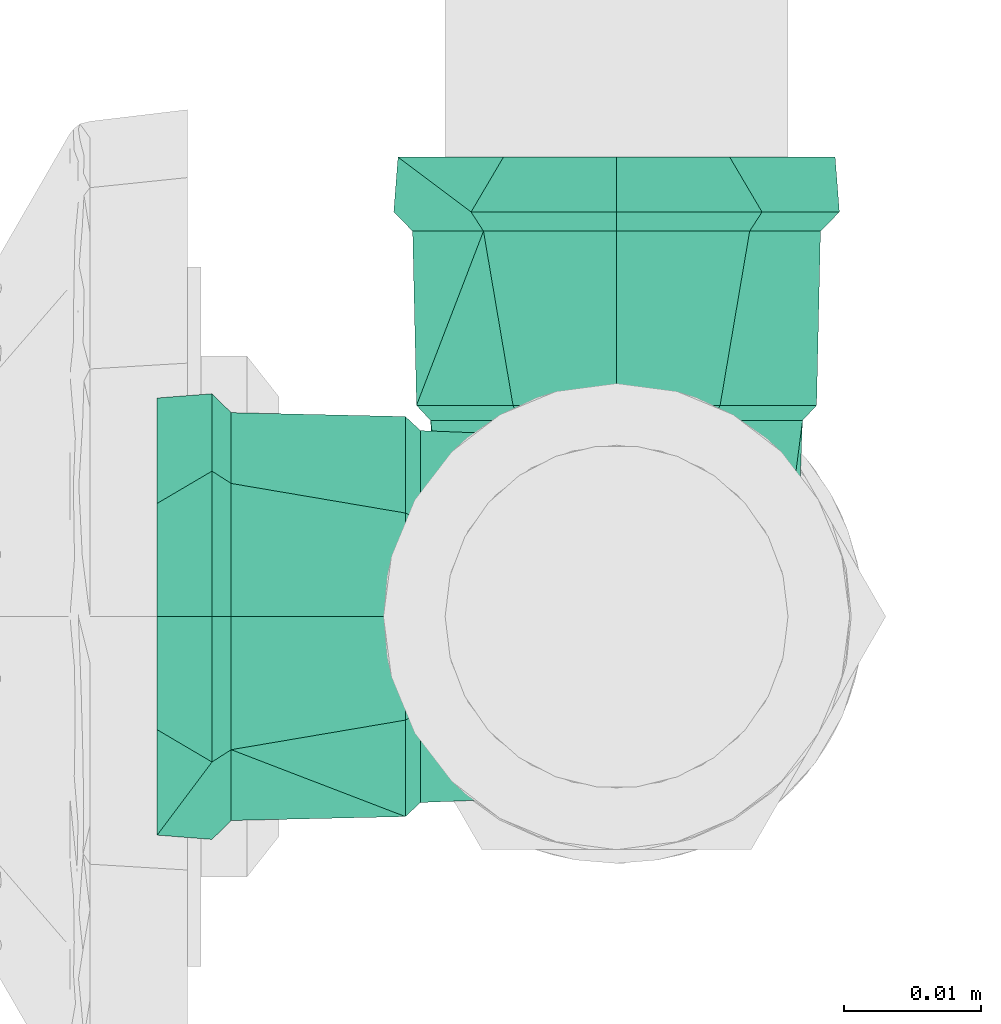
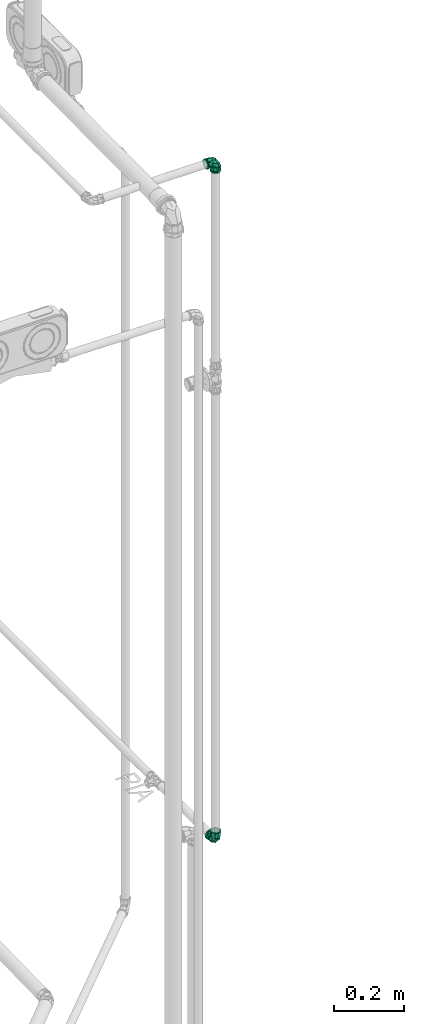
# One storey, part 326 of 589: 2 flow fittings.
"""IFC2X3 building model written with IfcOpenShell, lengths in millimetres."""

import ifcopenshell
import ifcopenshell.guid

model = None  # the IFC model being written
_history = None  # IfcOwnerHistory: only IFC2X3 demands one
_inside = {}  # id of a spatial element -> (the spatial element, [elements in it])
_under = {}  # id of a project, library or spatial element -> (it, [spatial elements below it])
_declared = {}  # id of a project -> (the project, [libraries it declares])
_typed = {}  # id of a type object -> (the type object, [elements of that type])
_made_of = {}  # id of a material, layer set ... -> (it, [elements and type objects made of it])


def new_model(schema):
    """Start an empty IFC model of exactly this schema.

    Asked for "IFC4X3", IfcOpenShell would pick the latest addendum, in which some entities
    have other attributes; the version numbers below select the first issue.
    IFC2X3 requires an IfcOwnerHistory on every rooted entity: one is made here for all.
    """
    global model, _history
    if schema == "IFC4X3":
        model = ifcopenshell.file(schema_version=(4, 3, 0, 0))
    else:
        model = ifcopenshell.file(schema=schema)
    _inside.clear()
    _under.clear()
    _declared.clear()
    _typed.clear()
    _made_of.clear()
    _history = None
    if model.schema == "IFC2X3":
        org = make("IfcOrganization", Name="unknown")
        user = make(
            "IfcPersonAndOrganization",
            ThePerson=make("IfcPerson", FamilyName="unknown"),
            TheOrganization=org,
        )
        app = make(
            "IfcApplication",
            ApplicationDeveloper=org,
            Version="unknown",
            ApplicationFullName="unknown",
            ApplicationIdentifier="unknown",
        )
        _history = make(
            "IfcOwnerHistory",
            OwningUser=user,
            OwningApplication=app,
            ChangeAction="ADDED",
            CreationDate=0,
        )
    return model


def make(cls, **values):
    """One entity of the class cls with the attributes given. An attribute that is None is left unset."""
    return model.create_entity(
        cls, **{name: value for name, value in values.items() if value is not None}
    )


def entity(cls, *values):
    """Any entity or typed value of the class cls, its attributes in the order of the schema. None: left unset."""
    e = model.create_entity(cls)
    for i, value in enumerate(values):
        if value is not None:
            e[i] = value
    return e


def rooted(cls, **values):
    """An entity with a GlobalId (a new one), such as an element, a storey or a relation."""
    return make(cls, GlobalId=ifcopenshell.guid.new(), OwnerHistory=_history, **values)


def si_unit(unit_type, name, prefix=None):
    """IfcSIUnit, for example si_unit("LENGTHUNIT", "METRE", prefix="MILLI")."""
    return make("IfcSIUnit", UnitType=unit_type, Prefix=prefix, Name=name)


def converted_unit(unit_type, name, factor, base, dimensions=None, offset=None):
    """IfcConversionBasedUnit, such as the inch: factor (a typed value) times the base unit."""
    return make(
        "IfcConversionBasedUnit"
        if offset is None
        else "IfcConversionBasedUnitWithOffset",
        ConversionOffset=offset,
        Dimensions=None
        if dimensions is None
        else entity("IfcDimensionalExponents", *dimensions),
        UnitType=unit_type,
        Name=name,
        ConversionFactor=make(
            "IfcMeasureWithUnit", ValueComponent=factor, UnitComponent=base
        ),
    )


def derived_unit(unit_type, elements):
    """IfcDerivedUnit: a product of units, each with its exponent."""
    return make(
        "IfcDerivedUnit",
        Elements=[
            make("IfcDerivedUnitElement", Unit=unit, Exponent=power)
            for unit, power in elements
        ],
        UnitType=unit_type,
    )


def assignment(units):
    """IfcUnitAssignment: the units of a project."""
    return None if units is None else make("IfcUnitAssignment", Units=units)


def point(xyz):
    """IfcCartesianPoint."""
    return None if xyz is None else make("IfcCartesianPoint", Coordinates=xyz)


def direction(xyz):
    """IfcDirection."""
    return None if xyz is None else make("IfcDirection", DirectionRatios=xyz)


def frame(location, z_axis=None, x_axis=None):
    """IfcAxis2Placement3D, a coordinate frame: its origin and axes. An axis left out is left unset."""
    return make(
        "IfcAxis2Placement3D",
        Location=point(location),
        Axis=direction(z_axis),
        RefDirection=direction(x_axis),
    )


def origin():
    """The frame at (0, 0, 0) with its axes left unset."""
    return frame((0.0, 0.0, 0.0))


def place(relative_to, where):
    """IfcLocalPlacement: puts the frame where relative to a parent placement (None: the world)."""
    return make(
        "IfcLocalPlacement", PlacementRelTo=relative_to, RelativePlacement=where
    )


def context(
    kind, dimensions, precision=None, world=None, true_north=None, identifier=None
):
    """IfcGeometricRepresentationContext, for example the 3D "Model" context."""
    return make(
        "IfcGeometricRepresentationContext",
        ContextIdentifier=identifier,
        ContextType=kind,
        CoordinateSpaceDimension=dimensions,
        Precision=precision,
        WorldCoordinateSystem=world,
        TrueNorth=true_north,
    )


def subcontext(parent, identifier, kind, view, scale=None):
    """IfcGeometricRepresentationSubContext, for example "Body" below "Model"."""
    return make(
        "IfcGeometricRepresentationSubContext",
        ContextIdentifier=identifier,
        ContextType=kind,
        ParentContext=parent,
        TargetScale=scale,
        TargetView=view,
    )


def project(units=None, contexts=None):
    """IfcProject with its units and contexts."""
    return rooted(
        "IfcProject",
        Name="project",
        RepresentationContexts=contexts,
        UnitsInContext=assignment(units),
    )


def spatial(cls, under=None, at=None, **own):
    """A site, building, storey or space (cls), placed at a placement, below another one or the project."""
    s = rooted(cls, ObjectPlacement=at, **own)
    if under is not None:
        _under.setdefault(under.id(), (under, []))[1].append(s)
    return s


def faces_of(points, faces, orient=None, outer=None):
    """IfcFace entities. A face is a list of loops; a loop is a list of indices into points, from 0.

    orient and outer hold one flag for each loop. By default every Orientation is true, the
    first loop of a face is its IfcFaceOuterBound and the others are IfcFaceBound.
    """
    made = []
    for i, loops in enumerate(faces):
        bounds = []
        for j, loop in enumerate(loops):
            is_outer = j == 0 if outer is None else outer[i][j]
            bounds.append(
                make(
                    "IfcFaceOuterBound" if is_outer else "IfcFaceBound",
                    Bound=make("IfcPolyLoop", Polygon=[points[k] for k in loop]),
                    Orientation=True if orient is None else orient[i][j],
                )
            )
        made.append(make("IfcFace", Bounds=bounds))
    return made


def faceted_brep(points, faces, orient=None, outer=None, voids=None):
    """IfcFacetedBrep: a solid bounded by flat faces; with voids (closed shells), ...WithVoids."""
    shared = [point(p) for p in points]
    hull = make("IfcClosedShell", CfsFaces=faces_of(shared, faces, orient, outer))
    if voids is None:
        return make("IfcFacetedBrep", Outer=hull)
    return make(
        "IfcFacetedBrepWithVoids",
        Outer=hull,
        Voids=[
            make(cls, CfsFaces=faces_of(shared, fs, o, b)) for cls, fs, o, b in voids
        ],
    )


def shape(context_of_items, identifier, shape_type, items):
    """IfcShapeRepresentation: the items that make up one representation, for example the "Body"."""
    return make(
        "IfcShapeRepresentation",
        ContextOfItems=context_of_items,
        RepresentationIdentifier=identifier,
        RepresentationType=shape_type,
        Items=items,
    )


def source(mapping_origin, context_of_items, identifier, shape_type, items):
    """IfcRepresentationMap: a shape defined once, which mapped items show again and again."""
    return make(
        "IfcRepresentationMap",
        MappingOrigin=mapping_origin,
        MappedRepresentation=shape(context_of_items, identifier, shape_type, items),
    )


def transform(
    local_origin,
    x_axis=None,
    y_axis=None,
    z_axis=None,
    scale=None,
    scale2=None,
    scale3=None,
    uniform=True,
):
    """IfcCartesianTransformationOperator3D, or its non-uniform kind. x_axis, y_axis, z_axis: its Axis1, 2, 3."""
    if uniform:
        return make(
            "IfcCartesianTransformationOperator3D",
            Axis1=direction(x_axis),
            Axis2=direction(y_axis),
            LocalOrigin=point(local_origin),
            Scale=scale,
            Axis3=direction(z_axis),
        )
    return make(
        "IfcCartesianTransformationOperator3DnonUniform",
        Axis1=direction(x_axis),
        Axis2=direction(y_axis),
        LocalOrigin=point(local_origin),
        Scale=scale,
        Axis3=direction(z_axis),
        Scale2=scale2,
        Scale3=scale3,
    )


def mapped(mapping_source, mapping_target):
    """IfcMappedItem: shows the shape of a source again, moved by a transform."""
    return make(
        "IfcMappedItem", MappingSource=mapping_source, MappingTarget=mapping_target
    )


def material(Name=None, Category=None):
    """IfcMaterial."""
    return make("IfcMaterial", Name=Name, Category=Category)


def made_of(thing, what):
    """Note that an element or type object is made of a material, layer set ...; save() writes the relation."""
    if what is not None:
        _made_of.setdefault(what.id(), (what, []))[1].append(thing)
    return thing


def type_object(cls, material=None, **own):
    """A type object (cls), such as IfcWallType, which elements share."""
    return made_of(rooted(cls, **own), material)


def type_shapes(of_type, sources):
    """Give a type object the sources (RepresentationMaps) that its elements show as mapped items."""
    of_type.RepresentationMaps = sources


def element(
    cls,
    number,
    at=None,
    inside=None,
    cuts=None,
    type_object=None,
    material=None,
    context=None,
    identifier="Body",
    shape_type=None,
    held_by="IfcProductDefinitionShape",
    body=None,
    shapes=None,
    **own,
):
    """One element of the class cls, such as IfcWall. Its Tag is "e" and its number.

    at: its placement. inside: the storey or other place that contains it. cuts: it is an
    opening in that element (IfcRelVoidsElement). A single representation is given by context,
    identifier, shape_type and body (its items); several are given by shapes. held_by: the class
    of the entity that holds the representations. save() writes the other relations.
    """
    e = rooted(cls, Tag="e%d" % number, ObjectPlacement=at, **own)
    if body is not None:
        shapes = [shape(context, identifier, shape_type, body)]
    if shapes is not None:
        e.Representation = make(held_by, Representations=shapes)
    if inside is not None:
        _inside.setdefault(inside.id(), (inside, []))[1].append(e)
    if cuts is not None:
        rooted(
            "IfcRelVoidsElement", RelatingBuildingElement=cuts, RelatedOpeningElement=e
        )
    if type_object is not None:
        _typed.setdefault(type_object.id(), (type_object, []))[1].append(e)
    return made_of(e, material)


def aggregate(whole, parts):
    """IfcRelAggregates: a whole, such as a stair, and the parts it consists of."""
    return rooted("IfcRelAggregates", RelatingObject=whole, RelatedObjects=parts)


def save(model, path):
    """Write the relations noted so far, then the file.

    IfcRelAggregates (storeys below a building ...), IfcRelContainedInSpatialStructure (elements
    in a storey), IfcRelDefinesByType, IfcRelAssociatesMaterial and IfcRelDeclares: one each for
    every whole, place, type object, material and project.
    """
    for whole, parts in _under.values():
        aggregate(whole, parts)
    for where, things in _inside.values():
        rooted(
            "IfcRelContainedInSpatialStructure",
            RelatedElements=things,
            RelatingStructure=where,
        )
    for kind, things in _typed.values():
        rooted("IfcRelDefinesByType", RelatedObjects=things, RelatingType=kind)
    for what, things in _made_of.values():
        rooted("IfcRelAssociatesMaterial", RelatedObjects=things, RelatingMaterial=what)
    for by, libraries in _declared.values():
        rooted("IfcRelDeclares", RelatingContext=by, RelatedDefinitions=libraries)
    model.write(path)


model = new_model("IFC2X3")

# Units and contexts
model_context = context("Model", 3, precision=0.01, world=origin(), true_north=direction((6.123031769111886e-17, 1.0)))
body_context = subcontext(model_context, "Body", "Model", "MODEL_VIEW")
ifc_project = project(units=[si_unit("LENGTHUNIT", "METRE", prefix="MILLI"), si_unit("AREAUNIT", "SQUARE_METRE"), si_unit("VOLUMEUNIT", "CUBIC_METRE"), converted_unit("PLANEANGLEUNIT", "DEGREE", entity("IfcRatioMeasure", 0.017453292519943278), si_unit("PLANEANGLEUNIT", "RADIAN"), dimensions=[0, 0, 0, 0, 0, 0, 0]), si_unit("MASSUNIT", "GRAM", prefix="KILO"), derived_unit("MASSDENSITYUNIT", [(si_unit("MASSUNIT", "GRAM", prefix="KILO"), 1), (si_unit("LENGTHUNIT", "METRE"), -3)]), derived_unit("IONCONCENTRATIONUNIT", [(si_unit("MASSUNIT", "GRAM", prefix="KILO"), 1), (si_unit("LENGTHUNIT", "METRE"), -3)]), derived_unit("MOMENTOFINERTIAUNIT", [(si_unit("LENGTHUNIT", "METRE"), 4)]), si_unit("TIMEUNIT", "SECOND"), si_unit("FREQUENCYUNIT", "HERTZ"), si_unit("THERMODYNAMICTEMPERATUREUNIT", "DEGREE_CELSIUS"), derived_unit("THERMALTRANSMITTANCEUNIT", [(si_unit("MASSUNIT", "GRAM", prefix="KILO"), 1), (si_unit("THERMODYNAMICTEMPERATUREUNIT", "KELVIN"), -1), (si_unit("TIMEUNIT", "SECOND"), -3)]), derived_unit("THERMALCONDUCTANCEUNIT", [(si_unit("MASSUNIT", "GRAM", prefix="KILO"), 1), (si_unit("THERMODYNAMICTEMPERATUREUNIT", "KELVIN"), -1), (si_unit("TIMEUNIT", "SECOND"), -3), (si_unit("LENGTHUNIT", "METRE"), 1)]), derived_unit("VOLUMETRICFLOWRATEUNIT", [(si_unit("LENGTHUNIT", "METRE"), 3), (si_unit("TIMEUNIT", "SECOND"), -1)]), derived_unit("MASSFLOWRATEUNIT", [(si_unit("MASSUNIT", "GRAM", prefix="KILO"), 1), (si_unit("TIMEUNIT", "SECOND"), -1)]), derived_unit("ROTATIONALFREQUENCYUNIT", [(si_unit("TIMEUNIT", "SECOND"), -1)]), si_unit("ELECTRICCURRENTUNIT", "AMPERE"), si_unit("ELECTRICVOLTAGEUNIT", "VOLT"), si_unit("POWERUNIT", "WATT"), si_unit("FORCEUNIT", "NEWTON", prefix="KILO"), si_unit("ILLUMINANCEUNIT", "LUX"), si_unit("LUMINOUSFLUXUNIT", "LUMEN"), si_unit("LUMINOUSINTENSITYUNIT", "CANDELA"), derived_unit("USERDEFINED", [(si_unit("MASSUNIT", "GRAM", prefix="KILO"), -1), (si_unit("LENGTHUNIT", "METRE"), -2), (si_unit("TIMEUNIT", "SECOND"), 3), (si_unit("LUMINOUSFLUXUNIT", "LUMEN"), 1)]), derived_unit("USERDEFINED", [(si_unit("MASSUNIT", "GRAM", prefix="KILO"), 1), (si_unit("TIMEUNIT", "SECOND"), -3), (si_unit("LENGTHUNIT", "METRE"), 3), (si_unit("ELECTRICCURRENTUNIT", "AMPERE"), -2)]), derived_unit("SOUNDPOWERUNIT", [(si_unit("MASSUNIT", "GRAM", prefix="KILO"), 1), (si_unit("TIMEUNIT", "SECOND"), -3), (si_unit("LENGTHUNIT", "METRE"), 2)]), derived_unit("SOUNDPRESSUREUNIT", [(si_unit("MASSUNIT", "GRAM", prefix="KILO"), 1), (si_unit("LENGTHUNIT", "METRE"), -1), (si_unit("TIMEUNIT", "SECOND"), -2)]), derived_unit("LINEARVELOCITYUNIT", [(si_unit("LENGTHUNIT", "METRE"), 1), (si_unit("TIMEUNIT", "SECOND"), -1)]), si_unit("PRESSUREUNIT", "PASCAL"), derived_unit("USERDEFINED", [(si_unit("MASSUNIT", "GRAM", prefix="KILO"), 1), (si_unit("LENGTHUNIT", "METRE"), -2), (si_unit("TIMEUNIT", "SECOND"), -2)]), derived_unit("LINEARFORCEUNIT", [(si_unit("MASSUNIT", "GRAM", prefix="KILO"), 1), (si_unit("TIMEUNIT", "SECOND"), -2)]), derived_unit("PLANARFORCEUNIT", [(si_unit("MASSUNIT", "GRAM", prefix="KILO"), 1), (si_unit("LENGTHUNIT", "METRE"), -1), (si_unit("TIMEUNIT", "SECOND"), -2)]), derived_unit("SPECIFICHEATCAPACITYUNIT", [(si_unit("THERMODYNAMICTEMPERATUREUNIT", "KELVIN"), -1), (si_unit("LENGTHUNIT", "METRE"), 2), (si_unit("TIMEUNIT", "SECOND"), -2)]), derived_unit("HEATINGVALUEUNIT", [(si_unit("LENGTHUNIT", "METRE"), 2), (si_unit("TIMEUNIT", "SECOND"), -2)]), derived_unit("VAPORPERMEABILITYUNIT", [(si_unit("LENGTHUNIT", "METRE"), -1), (si_unit("TIMEUNIT", "SECOND"), 1)]), derived_unit("DYNAMICVISCOSITYUNIT", [(si_unit("MASSUNIT", "GRAM", prefix="KILO"), 1), (si_unit("TIMEUNIT", "SECOND"), -1), (si_unit("LENGTHUNIT", "METRE"), -1)]), derived_unit("THERMALEXPANSIONCOEFFICIENTUNIT", [(si_unit("THERMODYNAMICTEMPERATUREUNIT", "KELVIN"), -1)]), derived_unit("MODULUSOFELASTICITYUNIT", [(si_unit("MASSUNIT", "GRAM", prefix="KILO"), 1), (si_unit("LENGTHUNIT", "METRE"), -1), (si_unit("TIMEUNIT", "SECOND"), -2)]), derived_unit("ISOTHERMALMOISTURECAPACITYUNIT", [(si_unit("LENGTHUNIT", "METRE"), 3), (si_unit("MASSUNIT", "GRAM", prefix="KILO"), -1)]), derived_unit("MOISTUREDIFFUSIVITYUNIT", [(si_unit("TIMEUNIT", "SECOND"), -1), (si_unit("LENGTHUNIT", "METRE"), 2)])], contexts=[model_context])

# Site, building, storey
site_placement = place(None, origin())
site = spatial("IfcSite", under=ifc_project, at=site_placement, Name="Default", CompositionType="ELEMENT")
building_placement = place(site_placement, origin())
building = spatial("IfcBuilding", under=site, at=building_placement, CompositionType="ELEMENT")
storey_placement = place(building_placement, frame((0.0, 0.0, 100.0)))
storey = spatial("IfcBuildingStorey", under=building, at=storey_placement, Name="TÉRREO", CompositionType="ELEMENT", Elevation=100.0)

# Flow fittings
ifc_material = material(Name="PVC Marrom")
pipe_fitting_type = type_object("IfcPipeFittingType", Name="PVC Marrom Soldável_Joelho 45°_90°_Rodrigo MEP:Joelho", PredefinedType="NOTDEFINED", material=ifc_material)
shared_shape = source(origin(), body_context, "Body", "Brep", [
    faceted_brep([(3.908167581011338, 15.40000000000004, 14.585479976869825), (13.076983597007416, 15.40000000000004, 7.549999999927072), (15.099999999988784, 15.40000000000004, 0.0), (13.076983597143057, 15.40000000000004, -7.55000000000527), (3.9081675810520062, 15.40000000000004, -14.585479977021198), (-3.9081675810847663, 15.40000000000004, -14.585479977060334), (-13.076983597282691, 15.40000000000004, -7.550000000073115), (-15.100000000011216, 15.40000000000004, 0.0), (-13.076983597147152, 15.40000000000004, 7.549999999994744), (-3.908167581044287, 15.40000000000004, 14.585479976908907), (-3.633819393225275, 14.30000000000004, 13.561598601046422), (-12.158996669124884, 14.30000000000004, 7.0199999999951), (-14.040000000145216, 14.30000000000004, 0.0), (-12.158996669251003, 14.30000000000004, -7.020000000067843), (-3.6338193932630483, 14.30000000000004, -13.561598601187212), (3.6338193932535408, 14.30000000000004, -13.561598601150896), (12.158996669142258, 14.30000000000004, -7.020000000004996), (14.039999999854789, 14.30000000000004, 0.0), (12.158996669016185, 14.30000000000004, 7.0199999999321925), (3.6338193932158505, 14.30000000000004, 13.561598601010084)], [[[0, 1, 2, 3, 4, 5, 6, 7, 8, 9]], [[10, 11, 12, 13, 14, 15, 16, 17, 18, 19]], [[3, 17, 16]], [[4, 3, 16, 15]], [[3, 2, 17]], [[15, 14, 5, 4]], [[6, 5, 14, 13]], [[7, 13, 12]], [[7, 6, 13]], [[8, 12, 11]], [[9, 8, 11, 10]], [[8, 7, 12]], [[10, 19, 0, 9]], [[1, 0, 19, 18]], [[2, 18, 17]], [[2, 1, 18]]]),
    faceted_brep([(-15.399999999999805, 3.908167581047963, 14.585479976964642), (-15.399999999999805, 13.076983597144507, 7.549999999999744), (-15.399999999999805, 15.100000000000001, 0.0), (-15.399999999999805, 13.076983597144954, -7.54999999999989), (-15.399999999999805, 3.9081675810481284, -14.58547997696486), (-15.399999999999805, -3.9081675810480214, -14.585479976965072), (-15.399999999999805, -13.0769835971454, -7.550000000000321), (-15.399999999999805, -15.099999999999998, 0.0), (-15.399999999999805, -13.076983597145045, 7.550000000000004), (-15.399999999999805, -3.908167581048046, 14.585479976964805), (-14.299999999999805, 12.158996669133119, 7.019999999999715), (-14.299999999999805, 3.6338193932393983, 13.561598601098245), (-14.299999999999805, -3.633819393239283, 13.56159860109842), (-14.299999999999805, -12.15899666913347, 7.020000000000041), (-14.299999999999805, -14.040000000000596, 0.0), (-14.299999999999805, -12.158996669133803, -7.020000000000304), (-14.299999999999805, -3.63381939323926, -13.561598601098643), (-14.299999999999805, 3.6338193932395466, -13.56159860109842), (-14.299999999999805, 12.158996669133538, -7.019999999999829), (-14.299999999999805, 14.03999999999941, 0.0)], [[[0, 1, 2, 3, 4, 5, 6, 7, 8, 9]], [[10, 11, 12, 13, 14, 15, 16, 17, 18, 19]], [[3, 2, 19, 18]], [[4, 3, 18, 17]], [[17, 16, 5, 4]], [[6, 5, 16, 15]], [[7, 6, 15, 14]], [[8, 7, 14, 13]], [[9, 8, 13, 12]], [[12, 11, 0, 9]], [[1, 0, 11, 10]], [[2, 1, 10, 19]]]),
    faceted_brep([(-33.4999999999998, -4.2705142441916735, -15.937776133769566), (-33.4999999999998, -6.250000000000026, -10.825317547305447), (-33.4999999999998, 0.0, -12.5), (-33.4999999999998, -14.289419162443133, -8.25000000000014), (-33.4999999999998, 4.270514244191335, -15.937776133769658), (-33.4999999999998, -12.074072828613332, -3.23523806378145), (-33.4999999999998, -16.499999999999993, 0.0), (-33.4999999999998, -12.074072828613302, 3.2352380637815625), (-33.4999999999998, -14.289419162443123, 8.249999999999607), (-33.4999999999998, -6.249999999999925, 10.825317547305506), (-33.4999999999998, -4.27051424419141, 15.937776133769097), (-33.4999999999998, 0.0, 12.5), (-33.4999999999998, 4.270514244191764, 15.937776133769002), (-33.4999999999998, 6.249999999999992, 10.825317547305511), (-33.4999999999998, 14.28941916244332, 8.249999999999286), (-33.4999999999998, 12.074072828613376, 3.2352380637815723), (-33.4999999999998, 16.500000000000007, 0.0), (-33.4999999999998, 12.074072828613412, -3.235238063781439), (-33.4999999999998, 14.289419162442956, -8.250000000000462), (-33.4999999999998, 6.250000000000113, -10.82531754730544), (-29.499999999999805, 16.5, 0.0), (-29.500000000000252, 12.639142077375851, 10.606700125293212), (-29.50000000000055, 2.8633833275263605, 16.249647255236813), (-29.50000000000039, -12.64180232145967, 10.603529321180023), (-29.499999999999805, -16.499999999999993, 0.0), (-29.500000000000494, -4.889209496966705, 13.426588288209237), (-29.49999999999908, -12.641802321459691, -10.603529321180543), (-29.49999999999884, -2.8674593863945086, -16.24892847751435), (-29.499999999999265, 12.639142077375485, -10.606700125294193), (-29.499999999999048, 4.885841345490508, -13.427814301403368), (-28.099999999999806, -15.099999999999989, 0.0), (-28.10000000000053, -11.56916454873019, 9.703835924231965), (-28.100000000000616, -4.474367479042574, 12.287362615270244), (-28.1000000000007, 2.6204295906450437, 14.870889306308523), (-28.100000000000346, 11.566730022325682, 9.706737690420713), (-28.09999999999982, 15.099999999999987, 0.0), (-28.099999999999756, 11.566730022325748, -9.706737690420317), (-28.09999999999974, 4.4712851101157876, -12.28848460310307), (-28.09999999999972, -2.6241598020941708, -14.870231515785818), (-28.09999999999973, -11.569164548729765, -9.703835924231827), (-15.399999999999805, 0.0, -12.5), (-15.399999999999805, -6.250000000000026, -10.825317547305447), (-15.399999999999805, -3.908167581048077, -14.585479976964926), (-15.399999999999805, 3.9081675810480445, -14.585479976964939), (-15.399999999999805, 6.250000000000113, -10.82531754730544), (-15.399999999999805, -13.076983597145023, -7.549999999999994), (-15.399999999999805, -12.074072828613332, -3.23523806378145), (-15.399999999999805, -15.099999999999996, 0.0), (-15.399999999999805, -12.074072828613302, 3.2352380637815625), (-15.399999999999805, -13.076983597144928, 7.550000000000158), (-15.399999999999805, -6.249999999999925, 10.825317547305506), (-15.399999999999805, -3.9081675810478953, 14.585479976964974), (-15.399999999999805, 0.0, 12.5), (-15.399999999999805, 3.9081675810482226, 14.58547997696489), (-15.399999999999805, 6.249999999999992, 10.825317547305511), (-15.399999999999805, 13.076983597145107, 7.549999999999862), (-15.399999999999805, 12.074072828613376, 3.2352380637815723), (-15.399999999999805, 15.100000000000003, 0.0), (-15.399999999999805, 12.074072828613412, -3.235238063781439), (-15.399999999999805, 13.076983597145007, -7.550000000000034)], [[[0, 1, 2]], [[1, 0, 3]], [[2, 4, 0]], [[3, 5, 1]], [[3, 6, 5]], [[5, 6, 7]], [[8, 7, 6]], [[7, 8, 9]], [[10, 9, 8]], [[9, 10, 11]], [[11, 10, 12]], [[12, 13, 11]], [[14, 13, 12]], [[13, 14, 15]], [[16, 15, 14]], [[16, 17, 15]], [[18, 17, 16]], [[19, 17, 18]], [[19, 18, 4]], [[4, 2, 19]], [[16, 14, 20]], [[14, 21, 20]], [[21, 14, 12]], [[21, 12, 22]], [[23, 10, 8]], [[24, 8, 6]], [[10, 23, 25, 22]], [[23, 8, 24]], [[10, 22, 12]], [[6, 3, 24]], [[3, 26, 24]], [[26, 3, 0]], [[26, 0, 27]], [[28, 4, 18]], [[20, 18, 16]], [[4, 28, 29, 27]], [[28, 18, 20]], [[4, 27, 0]], [[30, 31, 23, 24]], [[31, 32, 33, 22, 25, 23]], [[34, 35, 20, 21]], [[34, 21, 22, 33]], [[35, 36, 28, 20]], [[36, 37, 38, 27, 29, 28]], [[39, 30, 24, 26]], [[39, 26, 27, 38]], [[40, 41, 42]], [[42, 43, 40]], [[44, 40, 43]], [[45, 42, 41]], [[41, 46, 45]], [[46, 47, 45]], [[48, 47, 46]], [[47, 48, 49]], [[50, 49, 48]], [[49, 50, 51]], [[52, 51, 50]], [[53, 51, 52]], [[52, 54, 53]], [[53, 54, 55]], [[56, 55, 54]], [[55, 56, 57]], [[56, 58, 57]], [[59, 58, 44]], [[57, 58, 59]], [[43, 59, 44]], [[35, 34, 55]], [[35, 55, 57]], [[55, 34, 53]], [[34, 33, 53]], [[51, 33, 32, 31]], [[49, 31, 30]], [[31, 49, 51]], [[49, 30, 47]], [[33, 51, 53]], [[30, 39, 45]], [[30, 45, 47]], [[45, 39, 42]], [[39, 38, 42]], [[43, 38, 37, 36]], [[59, 36, 35]], [[36, 59, 43]], [[59, 35, 57]], [[38, 43, 42]], [[9, 11, 52, 50]], [[7, 9, 50, 48]], [[48, 46, 5, 7]], [[1, 5, 46, 41]], [[2, 1, 41, 40]], [[19, 2, 40, 44]], [[17, 19, 44, 58]], [[58, 56, 15, 17]], [[13, 15, 56, 54]], [[11, 13, 54, 52]]]),
    faceted_brep([(-14.299999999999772, -3.6338193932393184, -13.561598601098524), (-14.299999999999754, -12.158996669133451, -7.020000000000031), (-14.29999999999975, -14.039999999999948, 0.0), (-14.299999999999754, -12.158996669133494, 7.019999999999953), (-14.299999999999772, -3.6338193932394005, 13.561598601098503), (-14.299999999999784, 3.633819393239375, 13.561598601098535), (-14.299999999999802, 12.158996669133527, 7.0200000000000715), (-14.299999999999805, 14.04000000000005, 0.0), (-14.299999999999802, 12.158996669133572, -7.019999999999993), (-14.299999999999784, 3.63381939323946, -13.561598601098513), (3.633819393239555, 14.29999999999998, -13.561598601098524), (-3.633819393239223, 14.300000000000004, -13.561598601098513), (-12.158996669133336, 14.300000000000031, -7.019999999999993), (-14.039999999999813, 14.300000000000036, 0.0), (-12.158996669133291, 14.300000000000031, 7.0200000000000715), (-3.6338193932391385, 14.300000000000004, 13.561598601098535), (3.6338193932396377, 14.29999999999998, 13.561598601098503), (12.158996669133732, 14.299999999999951, 7.019999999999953), (14.040000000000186, 14.299999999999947, 0.0), (12.158996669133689, 14.299999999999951, -7.020000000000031), (-0.45476175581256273, 0.4547603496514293, 13.009299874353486), (-4.991226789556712, -9.102895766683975, 8.866254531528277), (-2.689013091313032, -7.336393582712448, 0.0), (3.7770734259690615, -3.6031967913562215, 0.0), (9.09033094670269, 4.905775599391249, 8.841582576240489), (10.243159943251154, 0.13000000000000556, 0.0), (-14.116152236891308, 14.116152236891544, 0.0), (-8.296884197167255, 8.29688403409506, 12.78130953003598), (-0.454761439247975, 0.45476027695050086, -13.009299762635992), (-8.296884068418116, 8.296883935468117, -12.78130960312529), (9.090330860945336, 4.90577564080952, -8.84158269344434), (-4.991226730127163, -9.10289574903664, -8.866254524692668)], [[[0, 1, 2, 3, 4, 5, 6, 7, 8, 9]], [[10, 11, 12, 13, 14, 15, 16, 17, 18, 19]], [[4, 20, 5]], [[21, 3, 22]], [[20, 4, 21]], [[21, 22, 23]], [[17, 24, 25]], [[26, 6, 14]], [[23, 20, 21]], [[26, 7, 6]], [[6, 5, 27]], [[3, 2, 22]], [[20, 23, 24]], [[25, 18, 17]], [[20, 27, 5]], [[16, 20, 24]], [[17, 16, 24]], [[6, 27, 14]], [[26, 14, 13]], [[21, 4, 3]], [[27, 15, 14]], [[27, 20, 15]], [[23, 25, 24]], [[15, 20, 16]], [[8, 7, 26]], [[28, 29, 11]], [[28, 10, 30]], [[8, 12, 29]], [[31, 22, 1]], [[31, 23, 22]], [[28, 9, 29]], [[19, 30, 10]], [[0, 28, 31]], [[1, 22, 2]], [[8, 26, 12]], [[12, 11, 29]], [[8, 29, 9]], [[31, 1, 0]], [[10, 28, 11]], [[30, 19, 25]], [[0, 9, 28]], [[19, 18, 25]], [[25, 23, 30]], [[23, 31, 28]], [[30, 23, 28]], [[12, 26, 13]]]),
    faceted_brep([(0.0, 15.40000000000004, -12.5), (-6.249999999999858, 15.40000000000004, -10.825317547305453), (-3.908167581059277, 15.40000000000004, -14.585479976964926), (3.9081675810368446, 15.40000000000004, -14.585479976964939), (6.250000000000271, 15.40000000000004, -10.82531754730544), (-13.076983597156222, 15.40000000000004, -7.549999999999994), (-12.07407282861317, 15.40000000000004, -3.235238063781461), (-15.100000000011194, 15.40000000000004, 0.0), (-12.074072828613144, 15.40000000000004, 3.2352380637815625), (-13.076983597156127, 15.40000000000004, 7.550000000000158), (-6.249999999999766, 15.40000000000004, 10.825317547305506), (-3.9081675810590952, 15.40000000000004, 14.585479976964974), (0.0, 15.40000000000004, 12.5), (3.9081675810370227, 15.40000000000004, 14.58547997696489), (6.250000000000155, 15.40000000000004, 10.825317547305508), (13.076983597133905, 15.40000000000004, 7.549999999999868), (12.074072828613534, 15.40000000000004, 3.2352380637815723), (15.099999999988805, 15.40000000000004, 0.0), (12.07407282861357, 15.40000000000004, -3.235238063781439), (13.07698359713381, 15.40000000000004, -7.550000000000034), (15.099999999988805, 28.10000000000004, 0.0), (11.56673002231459, 28.100000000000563, 9.706737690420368), (4.471285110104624, 28.10000000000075, 12.288484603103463), (-2.624159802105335, 28.100000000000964, 14.870231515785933), (-11.569164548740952, 28.10000000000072, 9.703835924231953), (-15.100000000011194, 28.10000000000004, 0.0), (-11.569164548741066, 28.10000000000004, -9.703835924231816), (-4.474367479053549, 28.10000000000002, -12.287362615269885), (2.6204295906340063, 28.099999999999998, -14.870889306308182), (11.566730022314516, 28.10000000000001, -9.706737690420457), (-12.639142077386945, 29.50000000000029, 10.606700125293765), (-16.50000000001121, 29.500000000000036, 0.0), (-2.8633833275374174, 29.50000000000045, 16.249647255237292), (12.641802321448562, 29.500000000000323, 10.603529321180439), (4.889209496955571, 29.500000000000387, 13.426588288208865), (16.499999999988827, 29.50000000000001, 0.0), (12.64180232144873, 29.500000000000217, -10.603529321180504), (2.867459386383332, 29.500000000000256, -16.24892847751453), (-12.639142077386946, 29.500000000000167, -10.606700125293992), (-4.885841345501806, 29.500000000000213, -13.427814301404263), (-4.270514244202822, 33.50000000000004, -15.937776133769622), (-6.249999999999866, 33.50000000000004, -10.825317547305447), (0.0, 33.50000000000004, -12.5), (-14.289419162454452, 33.50000000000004, -8.249999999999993), (4.270514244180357, 33.50000000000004, -15.937776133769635), (-12.074072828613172, 33.50000000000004, -3.23523806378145), (-16.50000000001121, 33.50000000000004, 0.0), (-12.074072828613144, 33.50000000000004, 3.2352380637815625), (-14.28941916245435, 33.50000000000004, 8.250000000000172), (-6.2499999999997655, 33.50000000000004, 10.825317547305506), (-4.270514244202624, 33.50000000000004, 15.937776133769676), (0.0, 33.50000000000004, 12.5), (4.270514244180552, 33.50000000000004, 15.937776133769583), (6.250000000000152, 33.50000000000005, 10.825317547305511), (14.289419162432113, 33.50000000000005, 8.249999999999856), (12.074072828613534, 33.50000000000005, 3.2352380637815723), (16.49999999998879, 33.50000000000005, 0.0), (12.07407282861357, 33.50000000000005, -3.235238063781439), (14.289419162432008, 33.50000000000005, -8.250000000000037), (6.250000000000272, 33.50000000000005, -10.82531754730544)], [[[0, 1, 2]], [[2, 3, 0]], [[4, 0, 3]], [[5, 2, 1]], [[1, 6, 5]], [[6, 7, 5]], [[8, 7, 6]], [[7, 8, 9]], [[10, 9, 8]], [[9, 10, 11]], [[12, 11, 10]], [[13, 11, 12]], [[12, 14, 13]], [[13, 14, 15]], [[16, 15, 14]], [[15, 16, 17]], [[16, 18, 17]], [[19, 18, 4]], [[17, 18, 19]], [[3, 19, 4]], [[20, 21, 15]], [[20, 15, 17]], [[15, 21, 13]], [[13, 21, 22, 23]], [[11, 23, 24]], [[9, 24, 25]], [[24, 9, 11]], [[9, 25, 7]], [[23, 11, 13]], [[25, 26, 5]], [[25, 5, 7]], [[5, 26, 2]], [[2, 26, 27, 28]], [[3, 28, 29]], [[19, 29, 20]], [[29, 19, 3]], [[19, 20, 17]], [[28, 3, 2]], [[24, 23, 30]], [[25, 24, 31]], [[31, 24, 30]], [[23, 32, 30]], [[21, 20, 33]], [[21, 33, 34]], [[22, 32, 23]], [[35, 33, 20]], [[32, 22, 34]], [[22, 21, 34]], [[20, 29, 36]], [[36, 35, 20]], [[37, 36, 29]], [[38, 39, 27]], [[29, 28, 37]], [[26, 25, 31]], [[38, 27, 26]], [[38, 26, 31]], [[28, 39, 37]], [[39, 28, 27]], [[40, 41, 42]], [[41, 40, 43]], [[42, 44, 40]], [[43, 45, 41]], [[43, 46, 45]], [[45, 46, 47]], [[48, 47, 46]], [[47, 48, 49]], [[50, 49, 48]], [[49, 50, 51]], [[51, 50, 52]], [[52, 53, 51]], [[54, 53, 52]], [[53, 54, 55]], [[56, 55, 54]], [[56, 57, 55]], [[58, 57, 56]], [[59, 57, 58]], [[59, 58, 44]], [[44, 42, 59]], [[56, 54, 35]], [[54, 33, 35]], [[33, 54, 52]], [[52, 32, 34, 33]], [[30, 50, 48]], [[31, 48, 46]], [[50, 30, 32]], [[30, 48, 31]], [[50, 32, 52]], [[46, 43, 31]], [[43, 38, 31]], [[38, 43, 40]], [[40, 37, 39, 38]], [[36, 44, 58]], [[35, 58, 56]], [[44, 36, 37]], [[36, 58, 35]], [[44, 37, 40]], [[49, 51, 12, 10]], [[47, 49, 10, 8]], [[8, 6, 45, 47]], [[41, 45, 6, 1]], [[42, 41, 1, 0]], [[59, 42, 0, 4]], [[57, 59, 4, 18]], [[18, 16, 55, 57]], [[53, 55, 16, 14]], [[51, 53, 14, 12]]]),
])
type_shapes(pipe_fitting_type, [shared_shape])
for number, where, z_axis, x_axis in (
    (1, (341.4423921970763, -7747.531283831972, 600.0), (1.0, 0.0, 0.0), (0.0, 0.0, -1.0)),
    (2, (341.4423921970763, -7747.531283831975, 2970.0), (0.0, -1.0, 0.0), (0.0, 0.0, 1.0)),
):
    element("IfcFlowFitting", number, at=place(storey_placement, frame(where, z_axis=z_axis, x_axis=x_axis)), inside=storey, type_object=pipe_fitting_type, material=ifc_material, Name="PVC Marrom Soldável_Joelho 45°_90°_Rodrigo MEP:Joelho", ObjectType="PVC Marrom Soldável_Joelho 45°_90°_Rodrigo MEP:Joelho", context=body_context, shape_type="MappedRepresentation", body=[
        mapped(shared_shape, transform((0.0, 0.0, 0.0), scale=1.0)),
    ])

save(model, "model.ifc")
